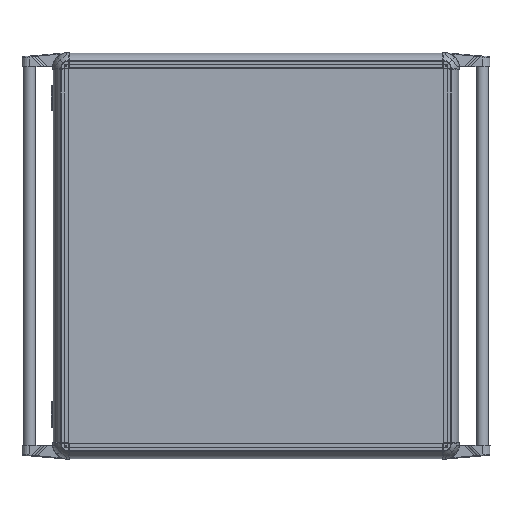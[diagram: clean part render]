
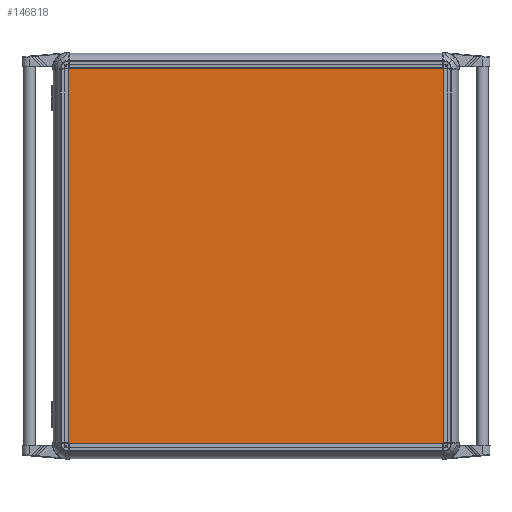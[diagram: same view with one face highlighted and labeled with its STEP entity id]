
A CAD part, top view. The second image highlights one B-rep face of the part: STEP entity #146818.
In plain terms, the highlighted planar face has unit normal (0, 0, 1).
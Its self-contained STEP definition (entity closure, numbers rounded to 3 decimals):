
#24253 = CARTESIAN_POINT ( 'NONE',  ( -300., 300., 2. ) ) ;
#33175 = VECTOR ( 'NONE', #162703, 1000. ) ;
#38189 = EDGE_CURVE ( 'NONE', #85547, #126645, #134991, .T. ) ;
#48196 = CARTESIAN_POINT ( 'NONE',  ( -300., -300., 2. ) ) ;
#50606 = CARTESIAN_POINT ( 'NONE',  ( 300., 300., 2. ) ) ;
#57806 = EDGE_CURVE ( 'NONE', #126645, #155707, #210256, .T. ) ;
#65545 = CARTESIAN_POINT ( 'NONE',  ( -300., 300., 2. ) ) ;
#67294 = CARTESIAN_POINT ( 'NONE',  ( 300., -300., 2. ) ) ;
#73167 = CARTESIAN_POINT ( 'NONE',  ( 0., 0., 2. ) ) ;
#74296 = DIRECTION ( 'NONE',  ( 0., 0., 1. ) ) ;
#85547 = VERTEX_POINT ( 'NONE', #176975 ) ;
#91912 = VECTOR ( 'NONE', #159054, 1000. ) ;
#92315 = ORIENTED_EDGE ( 'NONE', *, *, #38189, .T. ) ;
#97244 = ORIENTED_EDGE ( 'NONE', *, *, #142566, .T. ) ;
#103608 = VECTOR ( 'NONE', #149692, 1000. ) ;
#124666 = PLANE ( 'NONE',  #134669 ) ;
#126645 = VERTEX_POINT ( 'NONE', #67294 ) ;
#128111 = ORIENTED_EDGE ( 'NONE', *, *, #144637, .T. ) ;
#130707 = ORIENTED_EDGE ( 'NONE', *, *, #57806, .T. ) ;
#134669 = AXIS2_PLACEMENT_3D ( 'NONE', #73167, #74296, #213603 ) ;
#134991 = LINE ( 'NONE', #48196, #33175 ) ;
#135302 = DIRECTION ( 'NONE',  ( -1., 0., 0. ) ) ;
#142566 = EDGE_CURVE ( 'NONE', #206247, #85547, #164530, .T. ) ;
#144427 = CARTESIAN_POINT ( 'NONE',  ( -300., 300., 2. ) ) ;
#144637 = EDGE_CURVE ( 'NONE', #155707, #206247, #202541, .T. ) ;
#146818 = ADVANCED_FACE ( 'NONE', ( #194186 ), #124666, .T. ) ;
#149692 = DIRECTION ( 'NONE',  ( 0., -1., 0. ) ) ;
#155707 = VERTEX_POINT ( 'NONE', #223372 ) ;
#159054 = DIRECTION ( 'NONE',  ( 0., 1., 0. ) ) ;
#162703 = DIRECTION ( 'NONE',  ( 1., 0., 0. ) ) ;
#164530 = LINE ( 'NONE', #24253, #103608 ) ;
#176605 = EDGE_LOOP ( 'NONE', ( #130707, #128111, #97244, #92315 ) ) ;
#176975 = CARTESIAN_POINT ( 'NONE',  ( -300., -300., 2. ) ) ;
#194186 = FACE_OUTER_BOUND ( 'NONE', #176605, .T. ) ;
#202541 = LINE ( 'NONE', #65545, #210402 ) ;
#206247 = VERTEX_POINT ( 'NONE', #144427 ) ;
#210256 = LINE ( 'NONE', #50606, #91912 ) ;
#210402 = VECTOR ( 'NONE', #135302, 1000. ) ;
#213603 = DIRECTION ( 'NONE',  ( 1., 0., 0. ) ) ;
#223372 = CARTESIAN_POINT ( 'NONE',  ( 300., 300., 2. ) ) ;
